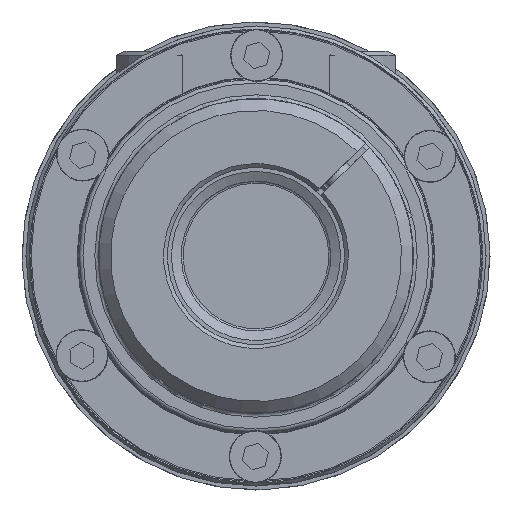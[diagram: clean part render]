
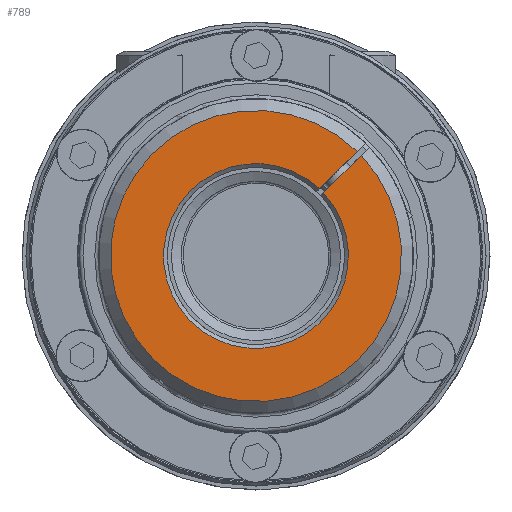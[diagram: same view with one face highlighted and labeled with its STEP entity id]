
A CAD part, left-side view. The second image highlights one B-rep face of the part: STEP entity #789.
In plain terms, the highlighted planar face has unit normal (-1, 0, 0) as drawn and (0, 0, -1) by its records, which use the part's own axes.
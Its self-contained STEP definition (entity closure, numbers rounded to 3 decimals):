
#789 = ADVANCED_FACE( '', ( #1720 ), #1721, .T. );
#1720 = FACE_OUTER_BOUND( '', #2682, .T. );
#1721 = PLANE( '', #2683 );
#2682 = EDGE_LOOP( '', ( #5196, #5197, #5198, #5199 ) );
#2683 = AXIS2_PLACEMENT_3D( '', #5200, #5201, #5202 );
#5196 = ORIENTED_EDGE( '', *, *, #5909, .F. );
#5197 = ORIENTED_EDGE( '', *, *, #5833, .T. );
#5198 = ORIENTED_EDGE( '', *, *, #5897, .T. );
#5199 = ORIENTED_EDGE( '', *, *, #5893, .T. );
#5200 = CARTESIAN_POINT( '', ( 0., 0., 0. ) );
#5201 = DIRECTION( '', ( 0., 0., -1. ) );
#5202 = DIRECTION( '', ( 0., -1., 0. ) );
#5833 = EDGE_CURVE( '', #7004, #7006, #7008, .T. );
#5893 = EDGE_CURVE( '', #7095, #7096, #7097, .F. );
#5897 = EDGE_CURVE( '', #7006, #7095, #7103, .T. );
#5909 = EDGE_CURVE( '', #7004, #7096, #7117, .F. );
#7004 = VERTEX_POINT( '', #9442 );
#7006 = VERTEX_POINT( '', #9447 );
#7008 = CIRCLE( '', #9452, 37. );
#7095 = VERTEX_POINT( '', #9629 );
#7096 = VERTEX_POINT( '', #9630 );
#7097 = CIRCLE( '', #9631, 23.5 );
#7103 = LINE( '', #9643, #9644 );
#7117 = LINE( '', #9676, #9677 );
#9442 = CARTESIAN_POINT( '', ( -36.992, 0.75, 0. ) );
#9447 = CARTESIAN_POINT( '', ( -36.992, -0.75, 0. ) );
#9452 = AXIS2_PLACEMENT_3D( '', #10955, #10956, #10957 );
#9629 = CARTESIAN_POINT( '', ( -23.488, -0.75, 0. ) );
#9630 = CARTESIAN_POINT( '', ( -23.488, 0.75, 0. ) );
#9631 = AXIS2_PLACEMENT_3D( '', #11062, #11063, #11064 );
#9643 = CARTESIAN_POINT( '', ( 0., -0.75, 0. ) );
#9644 = VECTOR( '', #11068, 1000. );
#9676 = CARTESIAN_POINT( '', ( -40., 0.75, 0. ) );
#9677 = VECTOR( '', #11084, 1000. );
#10955 = CARTESIAN_POINT( '', ( 0., 0., 0. ) );
#10956 = DIRECTION( '', ( 0., 0., -1. ) );
#10957 = DIRECTION( '', ( -1., 0., 0. ) );
#11062 = CARTESIAN_POINT( '', ( 0., 0., 0. ) );
#11063 = DIRECTION( '', ( 0., 0., -1. ) );
#11064 = DIRECTION( '', ( -1., 0., 0. ) );
#11068 = DIRECTION( '', ( 1., 0., 0. ) );
#11084 = DIRECTION( '', ( -1., 0., 0. ) );
